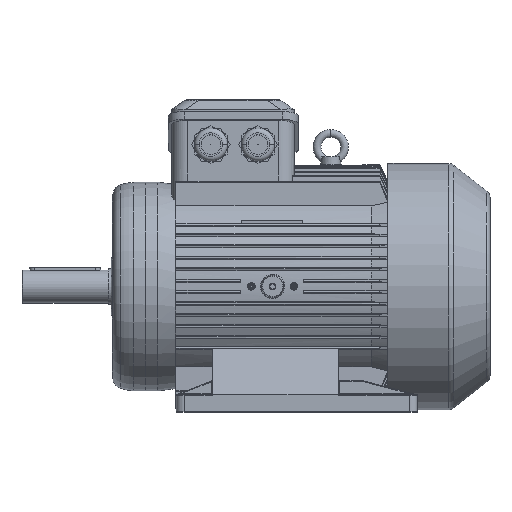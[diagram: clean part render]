
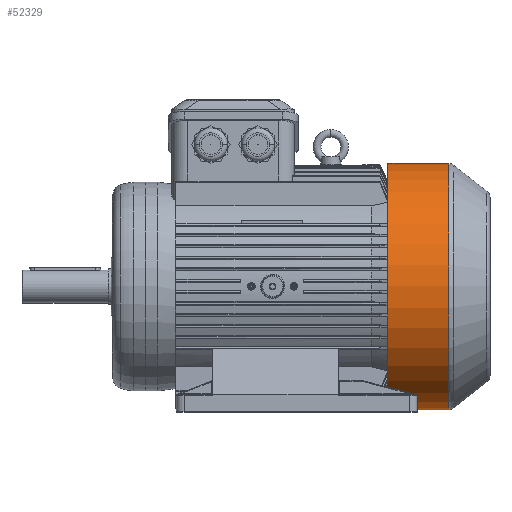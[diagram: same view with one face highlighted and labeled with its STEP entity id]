
A CAD part, top view. The second image highlights one B-rep face of the part: STEP entity #52329.
In plain terms, the highlighted cylindrical face has radius 156.75 mm (diameter 313.5 mm), a partial arc.
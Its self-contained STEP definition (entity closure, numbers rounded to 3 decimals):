
#262 = VERTEX_POINT ( 'NONE', #63297 ) ;
#2941 = ORIENTED_EDGE ( 'NONE', *, *, #67527, .T. ) ;
#3230 = LINE ( 'NONE', #25407, #48435 ) ;
#4359 = ORIENTED_EDGE ( 'NONE', *, *, #41626, .T. ) ;
#4638 = DIRECTION ( 'NONE',  ( 0., 1., 0. ) ) ;
#6730 = CARTESIAN_POINT ( 'NONE',  ( 596., 0., 0. ) ) ;
#9991 = CIRCLE ( 'NONE', #60783, 156.75 ) ;
#18129 = DIRECTION ( 'NONE',  ( 0., 1., 0. ) ) ;
#18161 = ORIENTED_EDGE ( 'NONE', *, *, #42865, .F. ) ;
#19347 = EDGE_LOOP ( 'NONE', ( #4359, #2941, #18161, #32114 ) ) ;
#19985 = DIRECTION ( 'NONE',  ( 1., 0., 0. ) ) ;
#24286 = AXIS2_PLACEMENT_3D ( 'NONE', #6730, #42320, #18129 ) ;
#25026 = VERTEX_POINT ( 'NONE', #72757 ) ;
#25407 = CARTESIAN_POINT ( 'NONE',  ( 596., -156.75, 0. ) ) ;
#26189 = CYLINDRICAL_SURFACE ( 'NONE', #24286, 156.75 ) ;
#26790 = CARTESIAN_POINT ( 'NONE',  ( 466., 0., 0. ) ) ;
#27314 = AXIS2_PLACEMENT_3D ( 'NONE', #57192, #74209, #4638 ) ;
#29020 = CARTESIAN_POINT ( 'NONE',  ( 543.599, -156.75, 0. ) ) ;
#32114 = ORIENTED_EDGE ( 'NONE', *, *, #70718, .F. ) ;
#32708 = DIRECTION ( 'NONE',  ( 1., 0., 0. ) ) ;
#36339 = CARTESIAN_POINT ( 'NONE',  ( 466., -156.75, 0. ) ) ;
#38625 = DIRECTION ( 'NONE',  ( 1., 0., 0. ) ) ;
#41626 = EDGE_CURVE ( 'NONE', #262, #76326, #9991, .T. ) ;
#42320 = DIRECTION ( 'NONE',  ( 1., 0., 0. ) ) ;
#42865 = EDGE_CURVE ( 'NONE', #25026, #74383, #52268, .T. ) ;
#45041 = VECTOR ( 'NONE', #38625, 1000. ) ;
#48435 = VECTOR ( 'NONE', #19985, 1000. ) ;
#52268 = CIRCLE ( 'NONE', #27314, 156.75 ) ;
#52329 = ADVANCED_FACE ( 'NONE', ( #53787 ), #26189, .T. ) ;
#53787 = FACE_OUTER_BOUND ( 'NONE', #19347, .T. ) ;
#54222 = LINE ( 'NONE', #67996, #45041 ) ;
#57192 = CARTESIAN_POINT ( 'NONE',  ( 543.599, 0., 0. ) ) ;
#60783 = AXIS2_PLACEMENT_3D ( 'NONE', #26790, #32708, #62252 ) ;
#62252 = DIRECTION ( 'NONE',  ( 0., 1., 0. ) ) ;
#63297 = CARTESIAN_POINT ( 'NONE',  ( 466., 156.75, 0. ) ) ;
#67527 = EDGE_CURVE ( 'NONE', #76326, #74383, #3230, .T. ) ;
#67996 = CARTESIAN_POINT ( 'NONE',  ( 596., 156.75, 0. ) ) ;
#70718 = EDGE_CURVE ( 'NONE', #262, #25026, #54222, .T. ) ;
#72757 = CARTESIAN_POINT ( 'NONE',  ( 543.599, 156.75, 0. ) ) ;
#74209 = DIRECTION ( 'NONE',  ( 1., 0., 0. ) ) ;
#74383 = VERTEX_POINT ( 'NONE', #29020 ) ;
#76326 = VERTEX_POINT ( 'NONE', #36339 ) ;
